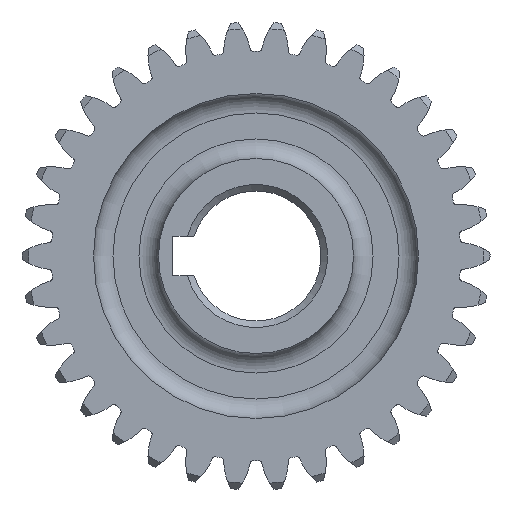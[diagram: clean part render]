
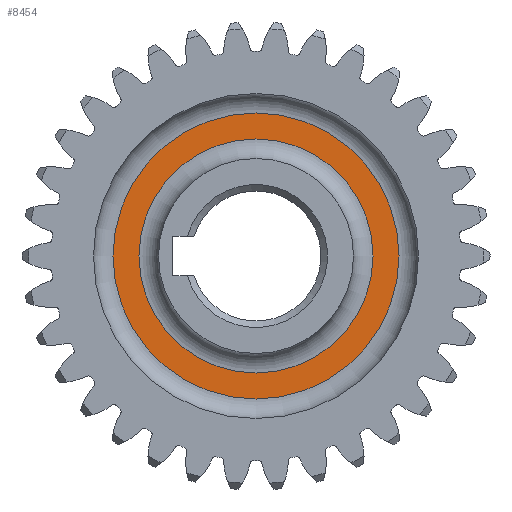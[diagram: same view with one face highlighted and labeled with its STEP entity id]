
A CAD part, left-side view. The second image highlights one B-rep face of the part: STEP entity #8454.
In plain terms, the highlighted planar face has unit normal (-1, 0, 0).
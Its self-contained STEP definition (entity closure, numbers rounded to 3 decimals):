
#586=FACE_BOUND('',#1957,.T.);
#1292=PLANE('',#9270);
#1485=FACE_OUTER_BOUND('',#1956,.T.);
#1956=EDGE_LOOP('',(#6493));
#1957=EDGE_LOOP('',(#6494,#6495));
#2564=CIRCLE('',#9267,22.);
#2567=CIRCLE('',#9271,18.);
#2568=CIRCLE('',#9272,18.);
#3432=VERTEX_POINT('',#14345);
#3434=VERTEX_POINT('',#14351);
#3435=VERTEX_POINT('',#14352);
#4545=EDGE_CURVE('',#3432,#3432,#2564,.T.);
#4548=EDGE_CURVE('',#3434,#3435,#2567,.T.);
#4549=EDGE_CURVE('',#3435,#3434,#2568,.T.);
#6493=ORIENTED_EDGE('',*,*,#4545,.F.);
#6494=ORIENTED_EDGE('',*,*,#4548,.F.);
#6495=ORIENTED_EDGE('',*,*,#4549,.F.);
#8454=ADVANCED_FACE('',(#1485,#586),#1292,.F.);
#9267=AXIS2_PLACEMENT_3D('',#14346,#11208,#11209);
#9270=AXIS2_PLACEMENT_3D('',#14350,#11214,#11215);
#9271=AXIS2_PLACEMENT_3D('',#14353,#11216,#11217);
#9272=AXIS2_PLACEMENT_3D('',#14354,#11218,#11219);
#11208=DIRECTION('center_axis',(1.,0.,0.));
#11209=DIRECTION('ref_axis',(0.,0.,-1.));
#11214=DIRECTION('center_axis',(1.,0.,0.));
#11215=DIRECTION('ref_axis',(0.,0.,-1.));
#11216=DIRECTION('center_axis',(-1.,0.,0.));
#11217=DIRECTION('ref_axis',(0.,0.,-1.));
#11218=DIRECTION('center_axis',(-1.,0.,0.));
#11219=DIRECTION('ref_axis',(0.,0.,-1.));
#14345=CARTESIAN_POINT('',(-2.,0.,22.));
#14346=CARTESIAN_POINT('Origin',(-2.,0.,0.));
#14350=CARTESIAN_POINT('Origin',(-2.,0.,0.));
#14351=CARTESIAN_POINT('',(-2.,0.,18.));
#14352=CARTESIAN_POINT('',(-2.,0.,-18.));
#14353=CARTESIAN_POINT('Origin',(-2.,0.,0.));
#14354=CARTESIAN_POINT('Origin',(-2.,0.,0.));
